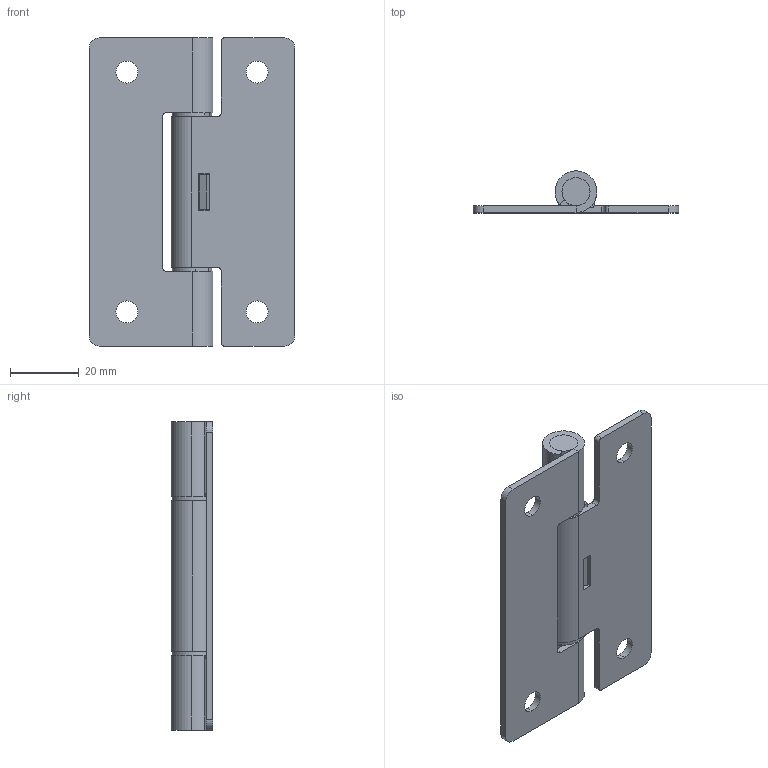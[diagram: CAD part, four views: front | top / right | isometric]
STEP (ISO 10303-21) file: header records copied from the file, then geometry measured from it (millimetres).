
FILE_DESCRIPTION (( 'STEP AP203' ), '1' );
FILE_NAME ('XG11-021-3.STEP', '2023-12-04T08:06:28', ( '' ), ( '' ), 'SwSTEP 2.0', 'SolidWorks 2020', '' );
FILE_SCHEMA (( 'CONFIG_CONTROL_DESIGN' ));
Length unit declared in the file: millimetre
Products named in the file (5): DP035-3蝓蟈1; hl50; DP035-3蝓蟈2; 种赽; XG11-021-3
Assembly tree (6 placements, depth 2):
  XG11-021-3
    DP035-3蝓蟈1
    DP035-3蝓蟈2
    hl50  x2
    种赽  x2
Bounding box: 60 x 12.2 x 90 mm (x, y, z)
Volume: 18329.5 mm3; surface area: 19644.7 mm2
Topology: 6 solids, 6 shells, 116 faces, 296 edges, 192 vertices
Faces by surface type: plane 62, cylinder 52, cone 2
Entity records: 3485 total; most frequent: DIRECTION 539, CARTESIAN_POINT 516, ORIENTED_EDGE 484, EDGE_CURVE 242, AXIS2_PLACEMENT_3D 199, VERTEX_POINT 156, VECTOR 141, LINE 141
